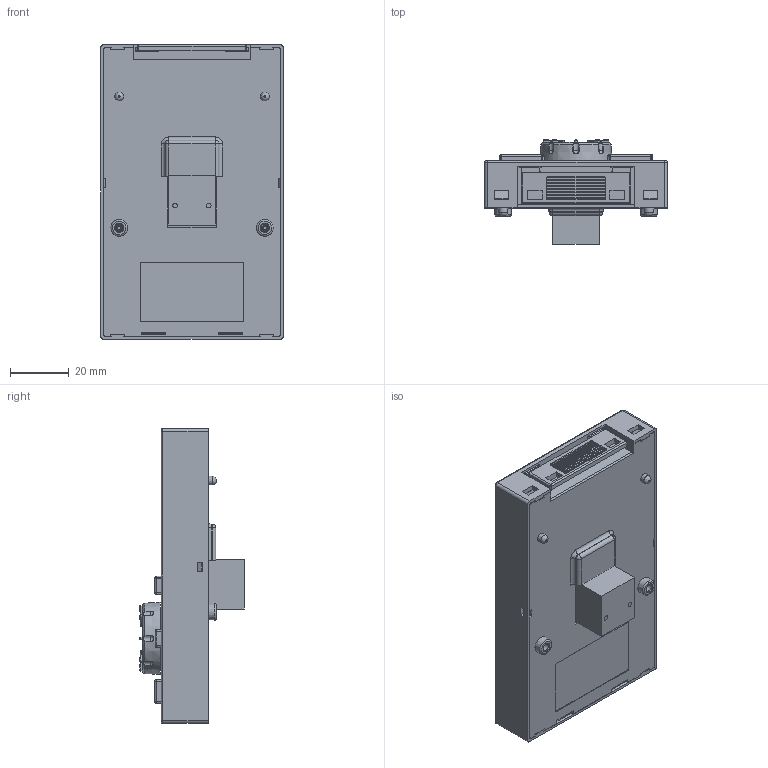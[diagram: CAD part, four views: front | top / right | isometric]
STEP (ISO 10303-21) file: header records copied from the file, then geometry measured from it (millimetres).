
FILE_DESCRIPTION(/* description */ (''),/* implementation_level */ '2;1');
FILE_NAME(/* name */ '',/* time_stamp */ '2025-12-16T12:15:00+04:00',/* author */ ('Александр (огранич)'),/* organization */ (''),/* preprocessor_version */ 'ST-DEVELOPER v19.2',/* originating_system */ 'Autodesk Inventor 2024',/* authorisation */ '');
FILE_SCHEMA (('AUTOMOTIVE_DESIGN { 1 0 10303 214 3 1 1 }'));
Products named in the file (7): Сборка1; Пульт оператора 
PBC00011; Кнопки рус; knopka_pusk; knopka_stop; knopka_prg2; knopka_jog_rev
Assembly tree (6 placements, depth 3):
  Сборка1
    Пульт оператора 
PBC00011
    Кнопки рус
      knopka_pusk
      knopka_stop
      knopka_prg2
      knopka_jog_rev
Bounding box: 62 x 35.57 x 100 mm (x, y, z)
Volume: 90831.7 mm3; surface area: 101366.1 mm2
Topology: 15 solids, 15 shells, 3821 faces, 10068 edges, 6463 vertices
Faces by surface type: plane 2043, bspline 930, cylinder 666, sphere 84, torus 57, cone 41
Full cylindrical faces by diameter (mm): 1 x1, 1.2 x2, 1.5 x4, 1.6 x2, 1.625 x2, 1.8 x8, 2.6 x2, 2.65 x12, 3 x8, 5 x1, 6 x1, 7 x1, 20 x1, 25 x1
Entity records: 145767 total; most frequent: CARTESIAN_POINT 50450, ORIENTED_EDGE 20136, DIRECTION 17275, EDGE_CURVE 10068, LINE 6561, VECTOR 6561, VERTEX_POINT 6463, AXIS2_PLACEMENT_3D 5357
